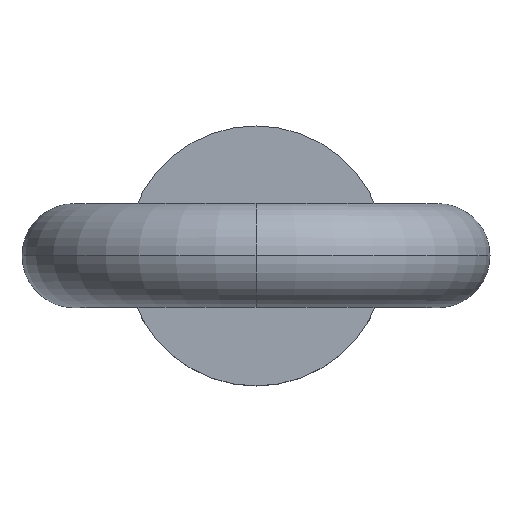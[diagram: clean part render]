
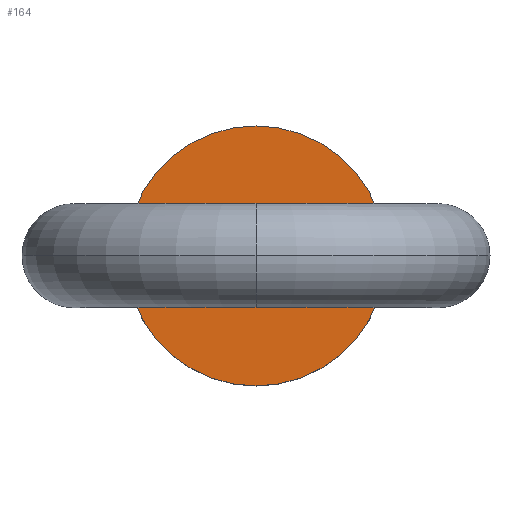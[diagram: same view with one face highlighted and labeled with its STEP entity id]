
A CAD part, top view. The second image highlights one B-rep face of the part: STEP entity #164.
In plain terms, the highlighted planar face has unit normal (0, 0, 1).
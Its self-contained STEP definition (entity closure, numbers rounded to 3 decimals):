
#164 = ADVANCED_FACE ( 'NONE', ( #311 ), #776, .F. ) ;
#261 = ORIENTED_EDGE ( 'NONE', *, *, #271, .F. ) ;
#271 = EDGE_CURVE ( 'NONE', #407, #349, #357, .T. ) ;
#285 = EDGE_CURVE ( 'NONE', #349, #407, #397, .T. ) ;
#309 = CARTESIAN_POINT ( 'NONE',  ( 25., 0., 18. ) ) ;
#311 = FACE_OUTER_BOUND ( 'NONE', #758, .T. ) ;
#313 = CARTESIAN_POINT ( 'NONE',  ( -25., 0., 18. ) ) ;
#323 = DIRECTION ( 'NONE',  ( -1., 0., 0. ) ) ;
#348 = DIRECTION ( 'NONE',  ( 0., 0., -1. ) ) ;
#349 = VERTEX_POINT ( 'NONE', #313 ) ;
#351 = CARTESIAN_POINT ( 'NONE',  ( 0., 0., 18. ) ) ;
#357 = CIRCLE ( 'NONE', #634, 25. ) ;
#379 = DIRECTION ( 'NONE',  ( -1., 0., 0. ) ) ;
#383 = DIRECTION ( 'NONE',  ( 0., 0., -1. ) ) ;
#397 = CIRCLE ( 'NONE', #626, 25. ) ;
#401 = ORIENTED_EDGE ( 'NONE', *, *, #285, .F. ) ;
#407 = VERTEX_POINT ( 'NONE', #309 ) ;
#411 = CARTESIAN_POINT ( 'NONE',  ( 0., 0., 18. ) ) ;
#563 = DIRECTION ( 'NONE',  ( -1., 0., 0. ) ) ;
#606 = DIRECTION ( 'NONE',  ( 0., 0., -1. ) ) ;
#626 = AXIS2_PLACEMENT_3D ( 'NONE', #351, #348, #323 ) ;
#634 = AXIS2_PLACEMENT_3D ( 'NONE', #411, #383, #379 ) ;
#742 = AXIS2_PLACEMENT_3D ( 'NONE', #755, #606, #563 ) ;
#755 = CARTESIAN_POINT ( 'NONE',  ( 0., 0., 18. ) ) ;
#758 = EDGE_LOOP ( 'NONE', ( #401, #261 ) ) ;
#776 = PLANE ( 'NONE',  #742 ) ;
